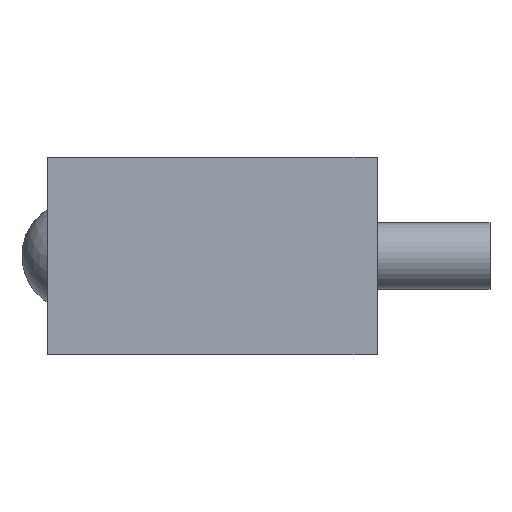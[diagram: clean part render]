
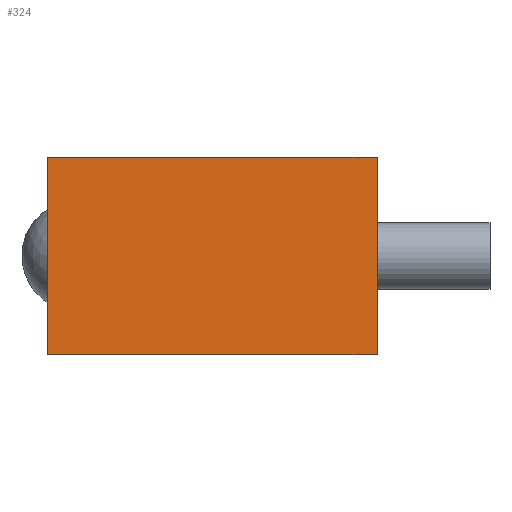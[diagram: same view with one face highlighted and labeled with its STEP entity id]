
A CAD part, left-side view. The second image highlights one B-rep face of the part: STEP entity #324.
In plain terms, the highlighted planar face has unit normal (-1, 0, 0).
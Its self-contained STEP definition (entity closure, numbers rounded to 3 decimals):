
#16=LINE('',#534,#32);
#22=LINE('',#549,#38);
#26=LINE('',#561,#42);
#28=LINE('',#564,#44);
#32=VECTOR('',#449,10.);
#38=VECTOR('',#459,10.);
#42=VECTOR('',#475,10.);
#44=VECTOR('',#479,10.);
#69=PLANE('',#384);
#91=FACE_OUTER_BOUND('',#125,.T.);
#125=EDGE_LOOP('',(#262,#263,#264,#265));
#161=VERTEX_POINT('',#532);
#162=VERTEX_POINT('',#533);
#168=VERTEX_POINT('',#546);
#169=VERTEX_POINT('',#548);
#189=EDGE_CURVE('',#161,#162,#16,.T.);
#196=EDGE_CURVE('',#168,#169,#22,.T.);
#202=EDGE_CURVE('',#169,#161,#26,.T.);
#204=EDGE_CURVE('',#162,#168,#28,.T.);
#262=ORIENTED_EDGE('',*,*,#196,.F.);
#263=ORIENTED_EDGE('',*,*,#204,.F.);
#264=ORIENTED_EDGE('',*,*,#189,.F.);
#265=ORIENTED_EDGE('',*,*,#202,.F.);
#324=ADVANCED_FACE('',(#91),#69,.T.);
#384=AXIS2_PLACEMENT_3D('',#563,#477,#478);
#449=DIRECTION('',(0.,0.,1.));
#459=DIRECTION('',(0.,0.,-1.));
#475=DIRECTION('',(0.,1.,0.));
#477=DIRECTION('center_axis',(-1.,0.,0.));
#478=DIRECTION('ref_axis',(0.,-1.,0.));
#479=DIRECTION('',(0.,-1.,0.));
#532=CARTESIAN_POINT('',(-90.,14.9,-8.9));
#533=CARTESIAN_POINT('',(-90.,14.9,8.9));
#534=CARTESIAN_POINT('',(-90.,14.9,0.));
#546=CARTESIAN_POINT('',(-90.,-14.9,8.9));
#548=CARTESIAN_POINT('',(-90.,-14.9,-8.9));
#549=CARTESIAN_POINT('',(-90.,-14.9,0.));
#561=CARTESIAN_POINT('',(-90.,14.9,-8.9));
#563=CARTESIAN_POINT('Origin',(-90.,14.9,0.));
#564=CARTESIAN_POINT('',(-90.,14.9,8.9));
